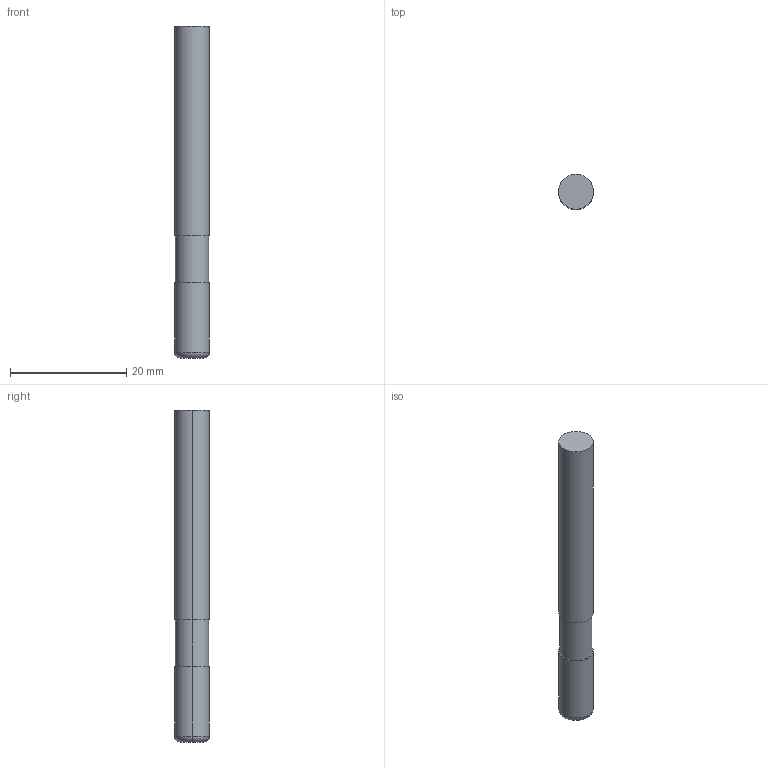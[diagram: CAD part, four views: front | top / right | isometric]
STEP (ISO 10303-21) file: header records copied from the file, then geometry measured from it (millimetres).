
FILE_DESCRIPTION(('STEP AP214'),'1');
FILE_NAME('cctmp_074AF44C-B879-4E24-8D1A-8CDDC1914406_2020_09_30_16_07_28_0243..stp','2020-09-30T14:07:28',('Meusburger Georg GmbH & Co KG'),('CADClick - www.CADClick.com'),'Spatial InterOp 3D',' ','unknown authorization');
FILE_SCHEMA(('AUTOMOTIVE_DESIGN { 1 0 10303 214 1 1 1 1 }'));
Length unit declared in the file: millimetre
Products named in the file (1): WZF 135461_6_1
Bounding box: 6 x 6 x 57 mm (x, y, z)
Volume: 1584.4 mm3; surface area: 1120.3 mm2
Topology: 1 solids, 1 shells, 12 faces, 22 edges, 14 vertices
Faces by surface type: cylinder 6, plane 4, torus 2
Entity records: 426 total; most frequent: DIRECTION 64, CARTESIAN_POINT 49, ORIENTED_EDGE 44, AXIS2_PLACEMENT_3D 29, EDGE_CURVE 22, CIRCLE 16, EDGE_LOOP 14, VERTEX_POINT 14
